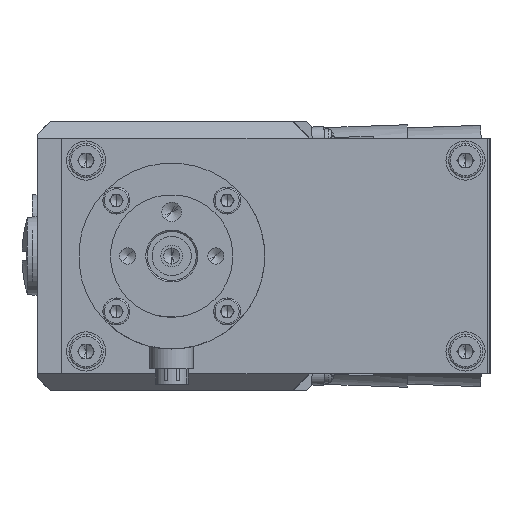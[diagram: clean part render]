
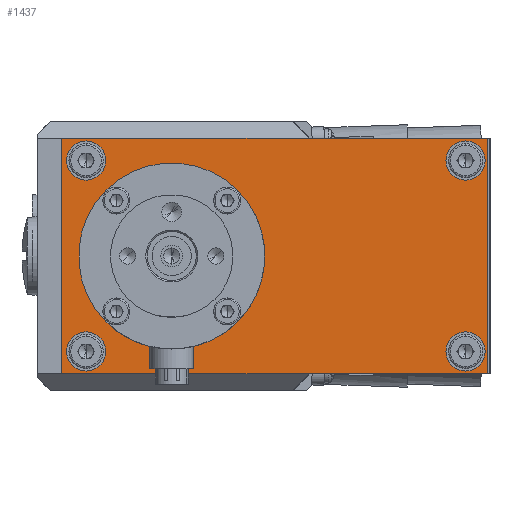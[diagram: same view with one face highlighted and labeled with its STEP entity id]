
A CAD part, left-side view. The second image highlights one B-rep face of the part: STEP entity #1437.
In plain terms, the highlighted planar face has unit normal (-1, 0, 0).
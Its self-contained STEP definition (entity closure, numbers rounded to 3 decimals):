
#423 = DIRECTION ( 'NONE',  ( -1., 0., 0. ) ) ;
#516 = EDGE_CURVE ( 'NONE', #39821, #22606, #55561, .T. ) ;
#711 = CARTESIAN_POINT ( 'NONE',  ( -106.001, -23.121, 2.182 ) ) ;
#807 = CARTESIAN_POINT ( 'NONE',  ( -106.001, 54.379, 37.182 ) ) ;
#917 = VERTEX_POINT ( 'NONE', #57499 ) ;
#1032 = CIRCLE ( 'NONE', #43352, 15.5 ) ;
#1235 = CIRCLE ( 'NONE', #11225, 15.5 ) ;
#1437 = ADVANCED_FACE ( 'NONE', ( #57676, #44921, #32121, #62168, #48669, #14098 ), #9348, .F. ) ;
#1817 = EDGE_CURVE ( 'NONE', #37418, #51199, #1235, .T. ) ;
#2039 = CIRCLE ( 'NONE', #29715, 4. ) ;
#3268 = CIRCLE ( 'NONE', #28447, 4. ) ;
#3404 = CARTESIAN_POINT ( 'NONE',  ( -106.001, 36.879, 21.682 ) ) ;
#3648 = EDGE_CURVE ( 'NONE', #917, #9923, #37916, .T. ) ;
#3814 = CARTESIAN_POINT ( 'NONE',  ( -106.001, -27.621, -2.318 ) ) ;
#3908 = VECTOR ( 'NONE', #31160, 1000. ) ;
#4145 = CARTESIAN_POINT ( 'NONE',  ( -106.001, 54.379, 41.182 ) ) ;
#5088 = EDGE_LOOP ( 'NONE', ( #22595, #15517 ) ) ;
#5145 = DIRECTION ( 'NONE',  ( 0., 0., -1. ) ) ;
#6314 = VECTOR ( 'NONE', #60171, 1000. ) ;
#6593 = DIRECTION ( 'NONE',  ( 0., 0., 1. ) ) ;
#7339 = EDGE_CURVE ( 'NONE', #9184, #18820, #26915, .T. ) ;
#8867 = EDGE_LOOP ( 'NONE', ( #59335, #11517, #33580, #50576 ) ) ;
#9184 = VERTEX_POINT ( 'NONE', #32548 ) ;
#9348 = PLANE ( 'NONE',  #37391 ) ;
#9507 = CARTESIAN_POINT ( 'NONE',  ( -106.001, 54.379, 2.182 ) ) ;
#9822 = CIRCLE ( 'NONE', #40512, 4. ) ;
#9856 = ORIENTED_EDGE ( 'NONE', *, *, #516, .F. ) ;
#9923 = VERTEX_POINT ( 'NONE', #59200 ) ;
#10048 = CIRCLE ( 'NONE', #10224, 4. ) ;
#10224 = AXIS2_PLACEMENT_3D ( 'NONE', #13248, #18026, #51681 ) ;
#10465 = EDGE_LOOP ( 'NONE', ( #52851, #9856 ) ) ;
#10501 = EDGE_CURVE ( 'NONE', #18820, #9184, #3268, .T. ) ;
#10848 = CARTESIAN_POINT ( 'NONE',  ( -106.001, -27.621, 45.682 ) ) ;
#11225 = AXIS2_PLACEMENT_3D ( 'NONE', #3404, #22276, #36389 ) ;
#11517 = ORIENTED_EDGE ( 'NONE', *, *, #3648, .T. ) ;
#13130 = EDGE_LOOP ( 'NONE', ( #60227, #49707 ) ) ;
#13248 = CARTESIAN_POINT ( 'NONE',  ( -106.001, -23.121, 41.182 ) ) ;
#14098 = FACE_OUTER_BOUND ( 'NONE', #8867, .T. ) ;
#14638 = EDGE_CURVE ( 'NONE', #51199, #37418, #1032, .T. ) ;
#15517 = ORIENTED_EDGE ( 'NONE', *, *, #44918, .F. ) ;
#15794 = DIRECTION ( 'NONE',  ( -1., 0., 0. ) ) ;
#16044 = VECTOR ( 'NONE', #62257, 1000. ) ;
#16981 = ORIENTED_EDGE ( 'NONE', *, *, #24957, .F. ) ;
#17621 = CARTESIAN_POINT ( 'NONE',  ( -106.001, 54.379, 2.182 ) ) ;
#17794 = EDGE_CURVE ( 'NONE', #53085, #19019, #9822, .T. ) ;
#18026 = DIRECTION ( 'NONE',  ( -1., 0., 0. ) ) ;
#18235 = DIRECTION ( 'NONE',  ( 0., 0., 1. ) ) ;
#18755 = CARTESIAN_POINT ( 'NONE',  ( -106.001, -27.621, -2.318 ) ) ;
#18780 = ORIENTED_EDGE ( 'NONE', *, *, #17794, .F. ) ;
#18820 = VERTEX_POINT ( 'NONE', #57477 ) ;
#19019 = VERTEX_POINT ( 'NONE', #43349 ) ;
#21428 = EDGE_CURVE ( 'NONE', #9923, #31004, #49186, .T. ) ;
#22169 = DIRECTION ( 'NONE',  ( 0., 0., 1. ) ) ;
#22276 = DIRECTION ( 'NONE',  ( -1., 0., 0. ) ) ;
#22595 = ORIENTED_EDGE ( 'NONE', *, *, #40418, .F. ) ;
#22606 = VERTEX_POINT ( 'NONE', #52109 ) ;
#22813 = AXIS2_PLACEMENT_3D ( 'NONE', #53156, #423, #48772 ) ;
#23862 = CARTESIAN_POINT ( 'NONE',  ( -106.001, 36.879, 6.182 ) ) ;
#23991 = DIRECTION ( 'NONE',  ( 0., 0., 1. ) ) ;
#24391 = DIRECTION ( 'NONE',  ( -1., 0., 0. ) ) ;
#24957 = EDGE_CURVE ( 'NONE', #19019, #53085, #32306, .T. ) ;
#25142 = DIRECTION ( 'NONE',  ( 0., 0., 1. ) ) ;
#25732 = EDGE_LOOP ( 'NONE', ( #16981, #18780 ) ) ;
#26072 = ORIENTED_EDGE ( 'NONE', *, *, #10501, .F. ) ;
#26915 = CIRCLE ( 'NONE', #37567, 4. ) ;
#27623 = CARTESIAN_POINT ( 'NONE',  ( -106.001, -23.121, 45.182 ) ) ;
#28068 = DIRECTION ( 'NONE',  ( -1., 0., 0. ) ) ;
#28291 = DIRECTION ( 'NONE',  ( 0., 0., 1. ) ) ;
#28447 = AXIS2_PLACEMENT_3D ( 'NONE', #711, #15794, #49449 ) ;
#29715 = AXIS2_PLACEMENT_3D ( 'NONE', #40885, #53467, #54527 ) ;
#29741 = EDGE_LOOP ( 'NONE', ( #26072, #42947 ) ) ;
#30109 = DIRECTION ( 'NONE',  ( -1., 0., 0. ) ) ;
#30723 = CARTESIAN_POINT ( 'NONE',  ( -106.001, -23.121, 2.182 ) ) ;
#30814 = CARTESIAN_POINT ( 'NONE',  ( -106.001, 59.379, -2.318 ) ) ;
#31004 = VERTEX_POINT ( 'NONE', #31305 ) ;
#31160 = DIRECTION ( 'NONE',  ( 0., -1., 0. ) ) ;
#31204 = AXIS2_PLACEMENT_3D ( 'NONE', #4145, #28068, #28291 ) ;
#31305 = CARTESIAN_POINT ( 'NONE',  ( -106.001, 59.379, -2.318 ) ) ;
#32121 = FACE_BOUND ( 'NONE', #10465, .T. ) ;
#32306 = CIRCLE ( 'NONE', #52445, 4. ) ;
#32548 = CARTESIAN_POINT ( 'NONE',  ( -106.001, -23.121, -1.818 ) ) ;
#33580 = ORIENTED_EDGE ( 'NONE', *, *, #21428, .T. ) ;
#33699 = CARTESIAN_POINT ( 'NONE',  ( -106.001, 54.379, -1.818 ) ) ;
#34629 = EDGE_CURVE ( 'NONE', #48569, #917, #48527, .T. ) ;
#36389 = DIRECTION ( 'NONE',  ( 0., 0., 1. ) ) ;
#37156 = EDGE_CURVE ( 'NONE', #22606, #39821, #50512, .T. ) ;
#37391 = AXIS2_PLACEMENT_3D ( 'NONE', #18755, #37903, #5145 ) ;
#37418 = VERTEX_POINT ( 'NONE', #44828 ) ;
#37567 = AXIS2_PLACEMENT_3D ( 'NONE', #30723, #30109, #6593 ) ;
#37903 = DIRECTION ( 'NONE',  ( 1., 0., 0. ) ) ;
#37916 = LINE ( 'NONE', #52007, #16044 ) ;
#38531 = LINE ( 'NONE', #45066, #3908 ) ;
#39821 = VERTEX_POINT ( 'NONE', #807 ) ;
#40226 = CARTESIAN_POINT ( 'NONE',  ( -106.001, -23.121, 37.182 ) ) ;
#40418 = EDGE_CURVE ( 'NONE', #43955, #44359, #2039, .T. ) ;
#40512 = AXIS2_PLACEMENT_3D ( 'NONE', #9507, #24391, #23991 ) ;
#40885 = CARTESIAN_POINT ( 'NONE',  ( -106.001, -23.121, 41.182 ) ) ;
#42947 = ORIENTED_EDGE ( 'NONE', *, *, #7339, .F. ) ;
#43349 = CARTESIAN_POINT ( 'NONE',  ( -106.001, 54.379, 6.182 ) ) ;
#43352 = AXIS2_PLACEMENT_3D ( 'NONE', #55591, #56208, #22169 ) ;
#43955 = VERTEX_POINT ( 'NONE', #27623 ) ;
#44359 = VERTEX_POINT ( 'NONE', #40226 ) ;
#44789 = VECTOR ( 'NONE', #25142, 1000. ) ;
#44828 = CARTESIAN_POINT ( 'NONE',  ( -106.001, 36.879, 37.182 ) ) ;
#44918 = EDGE_CURVE ( 'NONE', #44359, #43955, #10048, .T. ) ;
#44921 = FACE_BOUND ( 'NONE', #29741, .T. ) ;
#45066 = CARTESIAN_POINT ( 'NONE',  ( -106.001, -27.621, -2.318 ) ) ;
#45849 = EDGE_CURVE ( 'NONE', #31004, #48569, #38531, .T. ) ;
#46276 = DIRECTION ( 'NONE',  ( -1., 0., 0. ) ) ;
#48527 = LINE ( 'NONE', #10848, #44789 ) ;
#48569 = VERTEX_POINT ( 'NONE', #3814 ) ;
#48669 = FACE_BOUND ( 'NONE', #13130, .T. ) ;
#48772 = DIRECTION ( 'NONE',  ( 0., 0., 1. ) ) ;
#49186 = LINE ( 'NONE', #30814, #6314 ) ;
#49449 = DIRECTION ( 'NONE',  ( 0., 0., 1. ) ) ;
#49707 = ORIENTED_EDGE ( 'NONE', *, *, #14638, .F. ) ;
#50512 = CIRCLE ( 'NONE', #31204, 4. ) ;
#50576 = ORIENTED_EDGE ( 'NONE', *, *, #45849, .T. ) ;
#51199 = VERTEX_POINT ( 'NONE', #23862 ) ;
#51681 = DIRECTION ( 'NONE',  ( 0., 0., 1. ) ) ;
#52007 = CARTESIAN_POINT ( 'NONE',  ( -106.001, 59.379, 45.682 ) ) ;
#52109 = CARTESIAN_POINT ( 'NONE',  ( -106.001, 54.379, 45.182 ) ) ;
#52445 = AXIS2_PLACEMENT_3D ( 'NONE', #17621, #46276, #18235 ) ;
#52851 = ORIENTED_EDGE ( 'NONE', *, *, #37156, .F. ) ;
#53085 = VERTEX_POINT ( 'NONE', #33699 ) ;
#53156 = CARTESIAN_POINT ( 'NONE',  ( -106.001, 54.379, 41.182 ) ) ;
#53467 = DIRECTION ( 'NONE',  ( -1., 0., 0. ) ) ;
#54527 = DIRECTION ( 'NONE',  ( 0., 0., 1. ) ) ;
#55561 = CIRCLE ( 'NONE', #22813, 4. ) ;
#55591 = CARTESIAN_POINT ( 'NONE',  ( -106.001, 36.879, 21.682 ) ) ;
#56208 = DIRECTION ( 'NONE',  ( -1., 0., 0. ) ) ;
#57477 = CARTESIAN_POINT ( 'NONE',  ( -106.001, -23.121, 6.182 ) ) ;
#57499 = CARTESIAN_POINT ( 'NONE',  ( -106.001, -27.621, 45.682 ) ) ;
#57676 = FACE_BOUND ( 'NONE', #25732, .T. ) ;
#59200 = CARTESIAN_POINT ( 'NONE',  ( -106.001, 59.379, 45.682 ) ) ;
#59335 = ORIENTED_EDGE ( 'NONE', *, *, #34629, .T. ) ;
#60171 = DIRECTION ( 'NONE',  ( 0., 0., -1. ) ) ;
#60227 = ORIENTED_EDGE ( 'NONE', *, *, #1817, .F. ) ;
#62168 = FACE_BOUND ( 'NONE', #5088, .T. ) ;
#62257 = DIRECTION ( 'NONE',  ( 0., 1., 0. ) ) ;
